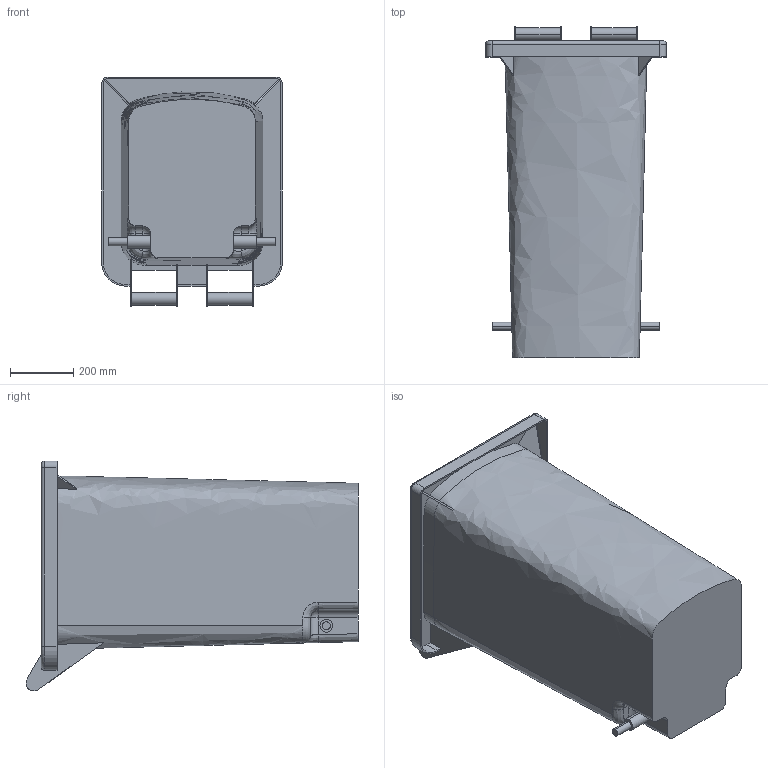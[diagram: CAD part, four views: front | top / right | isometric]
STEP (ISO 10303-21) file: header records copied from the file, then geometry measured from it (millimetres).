
FILE_DESCRIPTION (( 'STEP AP203' ), '1' );
FILE_NAME ('Corps_poubelle.STEP', '2008-11-03T11:12:51', ( 'Thomas Merta' ), ( 'SBS Sondermaschinen GmbH' ), 'SwSTEP 2.0', 'SolidWorks 2008', '' );
FILE_SCHEMA (( 'CONFIG_CONTROL_DESIGN' ));
Length unit declared in the file: millimetre
Products named in the file (1): Corps_poubelle
Bounding box: 570 x 1048.01 x 725.56 mm (x, y, z)
Volume: 17734275.4 mm3; surface area: 4423690.4 mm2
Topology: 1 solids, 1 shells, 146 faces, 385 edges, 242 vertices
Faces by surface type: plane 61, cylinder 44, bspline 33, sphere 4, torus 4
Entity records: 13540 total; most frequent: CARTESIAN_POINT 10115, ORIENTED_EDGE 762, DIRECTION 607, EDGE_CURVE 381, VERTEX_POINT 242, AXIS2_PLACEMENT_3D 216, VECTOR 175, LINE 175
